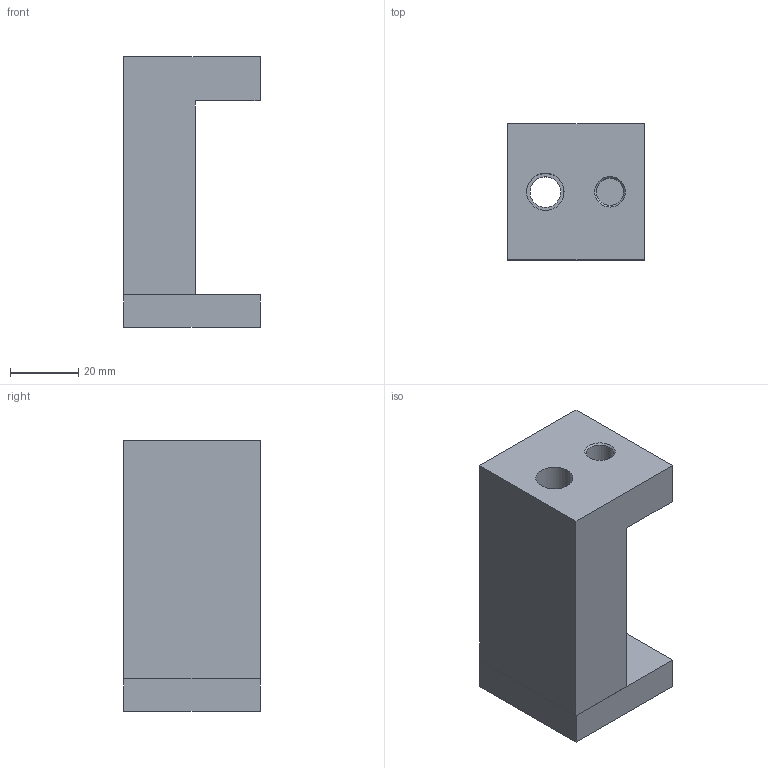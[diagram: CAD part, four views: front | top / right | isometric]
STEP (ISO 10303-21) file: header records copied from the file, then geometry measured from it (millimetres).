
FILE_DESCRIPTION(/* description */ ('','CAx-IF Rec.Pracs.---Representation and Presentation of Product Manufacturing Information (PMI)---3.8---2014-02-18'),/* implementation_level */ '2;1');
FILE_NAME(/* name */ 'E:\Users\CAD5\sito AP\scarica_file\3d\08.58.stp',/* time_stamp */ '2016-09-09T15:58:27+02:00',/* author */ ('CAD5'),/* organization */ (''),/* preprocessor_version */ 'ST-DEVELOPER v16.1',/* originating_system */ 'Autodesk Inventor 2016',/* authorisation */ '14639,4 mm^3');
FILE_SCHEMA (('AP242_MANAGED_MODEL_BASED_3D_ENGINEERING_MIM_LF { 1 0 10303 442 1 1 4 }'));
Length unit declared in the file: millimetre
Products named in the file (4): 08.60; 08.63; UNI 5931 - M 5 x  12 - 0,8 - 9,6; 08.58
Assembly tree (4 placements, depth 2):
  08.58
    08.60
    08.63
    UNI 5931 - M 5 x  12 - 0,8 - 9,6  x2
Bounding box: 40 x 40 x 79.5 mm (x, y, z)
Volume: 75414.2 mm3; surface area: 21244.9 mm2
Topology: 4 solids, 4 shells, 58 faces, 130 edges, 84 vertices
Faces by surface type: plane 34, cylinder 13, cone 7, torus 4
Full cylindrical faces by diameter (mm): 4.134 x2, 5 x2, 5.5 x2, 8 x1, 8.5 x2, 9 x1, 10 x2, 11 x1
Entity records: 1170 total; most frequent: DIRECTION 196, CARTESIAN_POINT 195, ORIENTED_EDGE 148, AXIS2_PLACEMENT_3D 77, EDGE_LOOP 74, EDGE_CURVE 74, VERTEX_POINT 58, FACE_OUTER_BOUND 43
